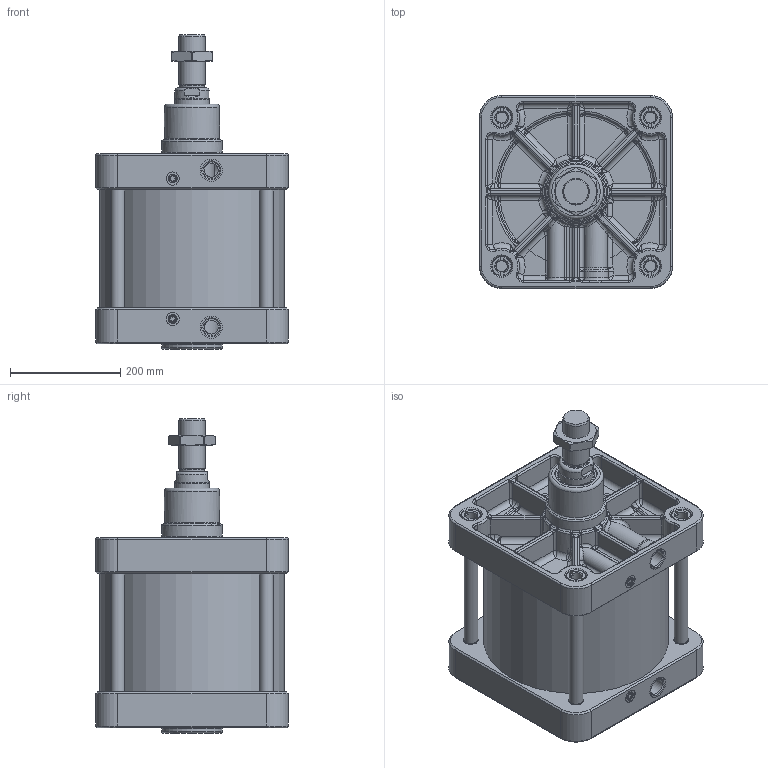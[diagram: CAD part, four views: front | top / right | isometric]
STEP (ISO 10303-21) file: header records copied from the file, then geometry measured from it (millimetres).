
FILE_DESCRIPTION(/* description */ (''),/* implementation_level */ '2;1');
FILE_NAME(/* name */ 'T:\Archivio Inventor\- 00 NUOVI STP PER SITO CON STELO CHE SI MUOVE\SERIE H - U\SERIE UDM\UDM320.---.GS.M\UDM320.125.GS.M.stp',/* time_stamp */ '2020-04-29T16:28:49+02:00',/* author */ ('carlo.corazza'),/* organization */ (''),/* preprocessor_version */ 'ST-DEVELOPER v16.5',/* originating_system */ 'Autodesk Inventor 2017',/* authorisation */ '');
FILE_SCHEMA (('AUTOMOTIVE_DESIGN { 1 0 10303 214 3 1 1 }'));
Length unit declared in the file: millimetre
Products named in the file (7): UDM320.125.GS.M; TP; STELO-125; TA; CORPO-125; TIRANTE-125; 29.2048.000.0
Assembly tree (9 placements, depth 2):
  UDM320.125.GS.M
    TP
    STELO-125
    TA
    TIRANTE-125  x4
    CORPO-125
    29.2048.000.0
Bounding box: 350 x 350 x 571 mm (x, y, z)
Volume: 12703510.1 mm3; surface area: 1789345.4 mm2
Topology: 9 solids, 16 shells, 1710 faces, 3937 edges, 2221 vertices
Faces by surface type: cylinder 439, bspline 432, plane 380, torus 252, cone 115, sphere 92
Full cylindrical faces by diameter (mm): 8 x2, 9 x1, 10 x1, 11 x2, 11.2 x2, 12 x2, 12.376 x1, 13.4 x4, 14 x2, 15.8 x4, 16 x6, 20.752 x8, 24 x10, 24.5 x8, 25 x6, 30.291 x2, 36 x9, 37 x8, 40 x2, 44.8 x1, 45.835 x1, 48 x1, 62 x1, 63 x1, 64 x1, 64.293 x1, 65.8 x1, 73 x1, 75 x3, 100 x1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
Entity records: 64917 total; most frequent: CARTESIAN_POINT 27888, DIRECTION 7314, ORIENTED_EDGE 7088, EDGE_CURVE 3544, AXIS2_PLACEMENT_3D 3113, VERTEX_POINT 2134, EDGE_LOOP 1966, FACE_OUTER_BOUND 1683
